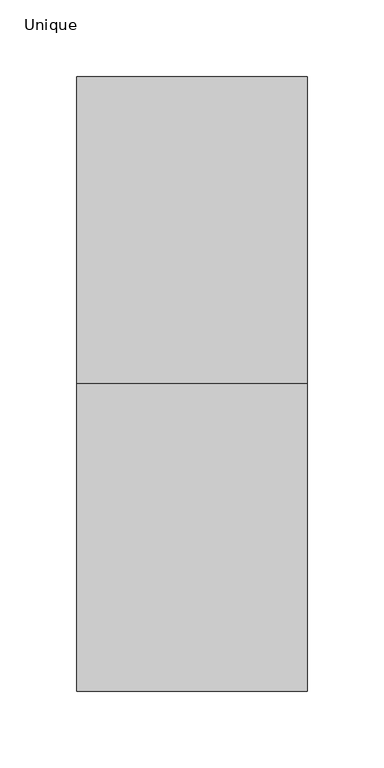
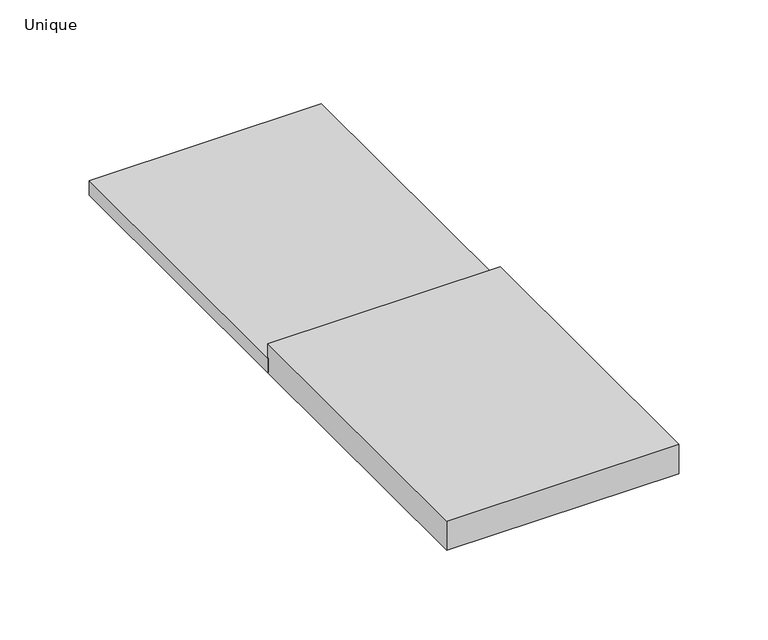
"""IFC4 building model written with IfcOpenShell, lengths in millimetres: furniture geometry, Pólis Square Panel : Unique."""

from ifc_helpers import new_model, si_unit, origin, origin_with_axes, place, context, project, spatial, polyline, outline, extrude, source, transform, mapped, element, save


def unique_6aa35540(model_context):
    return source(origin(), model_context, "Body", "SweptSolid", [
        extrude(outline(polyline([(-200.0, 0.0), (-200.0, 200.0), (-50.0, 200.0), (-50.0, 0.0), (-200.0, 0.0)])), origin_with_axes(), (0.0, 0.0, 1.0), 10.0),
        extrude(outline(polyline([(-200.0, -200.0), (-200.0, 0.0), (-50.0, 0.0), (-50.0, -200.0), (-200.0, -200.0)])), origin_with_axes(), (0.0, 0.0, 1.0), 20.0),
    ])


if __name__ == "__main__":
    model = new_model("IFC4")
    model_context = context("Model", 3, world=origin())
    ifc_project = project(units=[si_unit("LENGTHUNIT", "METRE", prefix="MILLI")], contexts=[model_context])
    site = spatial("IfcSite", under=ifc_project)
    building = spatial("IfcBuilding", under=site)
    placement = place(None, origin())
    unique_shape = unique_6aa35540(model_context)
    element("IfcFurniture", 1, ObjectType="Pólis Square Panel : Unique", at=placement, inside=building, context=model_context, shape_type="MappedRepresentation", body=[
        mapped(unique_shape, transform((0.0, 0.0, 0.0), x_axis=(1.0, 0.0, 0.0), y_axis=(0.0, 1.0, 0.0), z_axis=(0.0, 0.0, 1.0))),
    ])
    save(model, "model.ifc")
